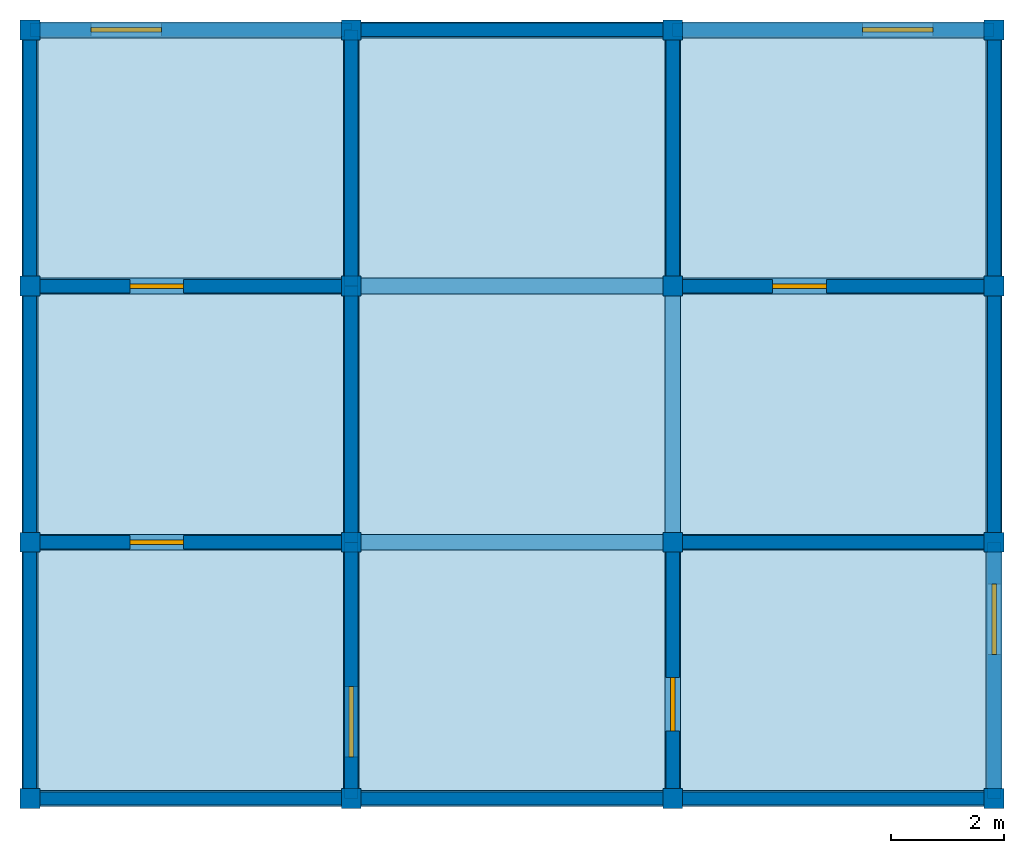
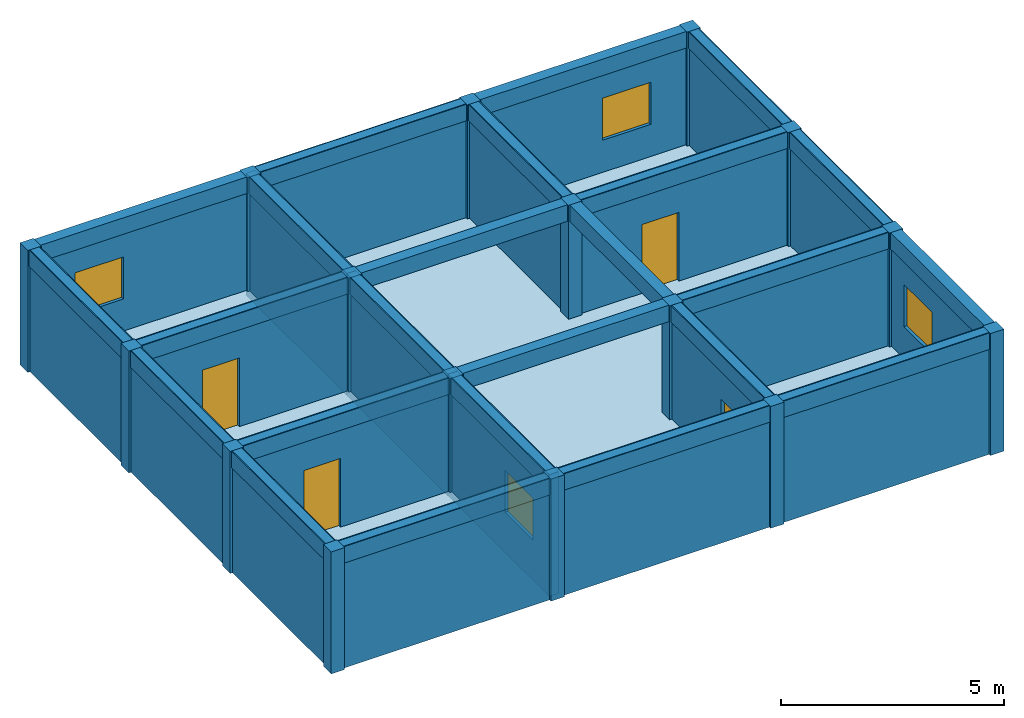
# One storey: 24 beams, 24 walls, 16 columns, 4 doors, 4 windows, 1 slab, 8 openings.
"""IFC4X3 building model written with IfcOpenShell, lengths in metres."""

from ifc_helpers import new_model, si_unit, frame, origin_with_axes, origin_2d, place, context, project, spatial, rectangle, extrude, material, element, fill, save


model = new_model("IFC4X3")

# Units and contexts
model_context = context("Model", 3, precision=1e-05, world=origin_with_axes())
ifc_project = project(units=[si_unit("LENGTHUNIT", "METRE"), si_unit("AREAUNIT", "SQUARE_METRE"), si_unit("VOLUMEUNIT", "CUBIC_METRE")], contexts=[model_context])

# Site, building, storey
site = spatial("IfcSite", under=ifc_project, Name="Valdivia Parcel", CompositionType="ELEMENT")
building = spatial("IfcBuilding", under=site, Name="Strata Block", CompositionType="ELEMENT")
storey = spatial("IfcBuildingStorey", under=building, Name="Level 10", CompositionType="ELEMENT", Elevation=30.02)

# Columns
ifc_material_1 = material(Name="Concrete")
column_1_placement = place(None, frame((-8.525, -6.795, 30.019), z_axis=(0.0, 0.0, 1.0), x_axis=(1.0, 0.0, 0.0)))
element("IfcColumn", 1, at=column_1_placement, inside=storey, material=ifc_material_1, Name="Column 10.1", ObjectType="Core Column", PredefinedType="PILASTER", context=model_context, shape_type="SweptSolid", body=[
    extrude(rectangle(XDim=0.35, YDim=0.35, at=origin_2d()), origin_with_axes(), (0.0, 0.0, 1.0), 3.335),
])
column_2_placement = place(None, frame((-8.525, -2.265, 30.019), z_axis=(0.0, 0.0, 1.0), x_axis=(1.0, 0.0, 0.0)))
element("IfcColumn", 2, at=column_2_placement, inside=storey, material=ifc_material_1, Name="Column 10.2", ObjectType="Facade Column", PredefinedType="COLUMN", context=model_context, shape_type="SweptSolid", body=[
    extrude(rectangle(XDim=0.35, YDim=0.35, at=origin_2d()), origin_with_axes(), (0.0, 0.0, 1.0), 3.335),
])
column_3_placement = place(None, frame((-8.525, 2.265, 30.019), z_axis=(0.0, 0.0, 1.0), x_axis=(1.0, 0.0, 0.0)))
element("IfcColumn", 3, at=column_3_placement, inside=storey, material=ifc_material_1, Name="Column 10.3", ObjectType="Corner Column", PredefinedType="PILASTER", context=model_context, shape_type="SweptSolid", body=[
    extrude(rectangle(XDim=0.35, YDim=0.35, at=origin_2d()), origin_with_axes(), (0.0, 0.0, 1.0), 3.335),
])
column_4_placement = place(None, frame((-8.525, 6.795, 30.019), z_axis=(0.0, 0.0, 1.0), x_axis=(1.0, 0.0, 0.0)))
element("IfcColumn", 4, at=column_4_placement, inside=storey, material=ifc_material_1, Name="Column 10.4", ObjectType="Facade Column", PredefinedType="COLUMN", context=model_context, shape_type="SweptSolid", body=[
    extrude(rectangle(XDim=0.35, YDim=0.35, at=origin_2d()), origin_with_axes(), (0.0, 0.0, 1.0), 3.335),
])
column_5_placement = place(None, frame((-2.842, -6.795, 30.019), z_axis=(0.0, 0.0, 1.0), x_axis=(1.0, 0.0, 0.0)))
element("IfcColumn", 5, at=column_5_placement, inside=storey, material=ifc_material_1, Name="Column 10.5", ObjectType="Structural Column", PredefinedType="COLUMN", context=model_context, shape_type="SweptSolid", body=[
    extrude(rectangle(XDim=0.35, YDim=0.35, at=origin_2d()), origin_with_axes(), (0.0, 0.0, 1.0), 3.335),
])
for number, where, z_axis, x_axis, name in (
    (6, (-2.842, -2.265, 30.019), (0.0, 0.0, 1.0), (1.0, 0.0, 0.0), "Column 10.6"),
    (7, (-2.842, 2.265, 30.019), (0.0, 0.0, 1.0), (1.0, 0.0, 0.0), "Column 10.7"),
):
    element("IfcColumn", number, at=place(None, frame(where, z_axis=z_axis, x_axis=x_axis)), inside=storey, material=ifc_material_1, Name=name, ObjectType="Corner Column", PredefinedType="USERDEFINED", context=model_context, shape_type="SweptSolid", body=[
        extrude(rectangle(XDim=0.35, YDim=0.35, at=origin_2d()), origin_with_axes(), (0.0, 0.0, 1.0), 3.335),
    ])
column_6_placement = place(None, frame((-2.842, 6.795, 30.019), z_axis=(0.0, 0.0, 1.0), x_axis=(1.0, 0.0, 0.0)))
element("IfcColumn", 8, at=column_6_placement, inside=storey, material=ifc_material_1, Name="Column 10.8", ObjectType="Structural Column", PredefinedType="USERDEFINED", context=model_context, shape_type="SweptSolid", body=[
    extrude(rectangle(XDim=0.35, YDim=0.35, at=origin_2d()), origin_with_axes(), (0.0, 0.0, 1.0), 3.335),
])
column_7_placement = place(None, frame((2.841, -6.795, 30.019), z_axis=(0.0, 0.0, 1.0), x_axis=(1.0, 0.0, 0.0)))
element("IfcColumn", 9, at=column_7_placement, inside=storey, material=ifc_material_1, Name="Column 10.9", ObjectType="Structural Column", PredefinedType="PILASTER", context=model_context, shape_type="SweptSolid", body=[
    extrude(rectangle(XDim=0.35, YDim=0.35, at=origin_2d()), origin_with_axes(), (0.0, 0.0, 1.0), 3.335),
])
column_8_placement = place(None, frame((2.841, -2.265, 30.019), z_axis=(0.0, 0.0, 1.0), x_axis=(1.0, 0.0, 0.0)))
element("IfcColumn", 10, at=column_8_placement, inside=storey, material=ifc_material_1, Name="Column 10.10", ObjectType="Facade Column", PredefinedType="COLUMN", context=model_context, shape_type="SweptSolid", body=[
    extrude(rectangle(XDim=0.35, YDim=0.35, at=origin_2d()), origin_with_axes(), (0.0, 0.0, 1.0), 3.335),
])
column_9_placement = place(None, frame((2.841, 2.265, 30.019), z_axis=(0.0, 0.0, 1.0), x_axis=(1.0, 0.0, 0.0)))
element("IfcColumn", 11, at=column_9_placement, inside=storey, material=ifc_material_1, Name="Column 10.11", ObjectType="Core Column", PredefinedType="USERDEFINED", context=model_context, shape_type="SweptSolid", body=[
    extrude(rectangle(XDim=0.35, YDim=0.35, at=origin_2d()), origin_with_axes(), (0.0, 0.0, 1.0), 3.335),
])
column_10_placement = place(None, frame((2.841, 6.795, 30.019), z_axis=(0.0, 0.0, 1.0), x_axis=(1.0, 0.0, 0.0)))
element("IfcColumn", 12, at=column_10_placement, inside=storey, material=ifc_material_1, Name="Column 10.12", ObjectType="Facade Column", PredefinedType="USERDEFINED", context=model_context, shape_type="SweptSolid", body=[
    extrude(rectangle(XDim=0.35, YDim=0.35, at=origin_2d()), origin_with_axes(), (0.0, 0.0, 1.0), 3.335),
])
column_11_placement = place(None, frame((8.524, -6.795, 30.019), z_axis=(0.0, 0.0, 1.0), x_axis=(1.0, 0.0, 0.0)))
element("IfcColumn", 13, at=column_11_placement, inside=storey, material=ifc_material_1, Name="Column 10.13", ObjectType="Corner Column", PredefinedType="PILASTER", context=model_context, shape_type="SweptSolid", body=[
    extrude(rectangle(XDim=0.35, YDim=0.35, at=origin_2d()), origin_with_axes(), (0.0, 0.0, 1.0), 3.335),
])
column_12_placement = place(None, frame((8.524, -2.265, 30.019), z_axis=(0.0, 0.0, 1.0), x_axis=(1.0, 0.0, 0.0)))
element("IfcColumn", 14, at=column_12_placement, inside=storey, material=ifc_material_1, Name="Column 10.14", ObjectType="Facade Column", PredefinedType="PILASTER", context=model_context, shape_type="SweptSolid", body=[
    extrude(rectangle(XDim=0.35, YDim=0.35, at=origin_2d()), origin_with_axes(), (0.0, 0.0, 1.0), 3.335),
])
column_13_placement = place(None, frame((8.524, 2.265, 30.019), z_axis=(0.0, 0.0, 1.0), x_axis=(1.0, 0.0, 0.0)))
element("IfcColumn", 15, at=column_13_placement, inside=storey, material=ifc_material_1, Name="Column 10.15", ObjectType="Core Column", PredefinedType="COLUMN", context=model_context, shape_type="SweptSolid", body=[
    extrude(rectangle(XDim=0.35, YDim=0.35, at=origin_2d()), origin_with_axes(), (0.0, 0.0, 1.0), 3.335),
])
column_14_placement = place(None, frame((8.524, 6.795, 30.019), z_axis=(0.0, 0.0, 1.0), x_axis=(1.0, 0.0, 0.0)))
element("IfcColumn", 16, at=column_14_placement, inside=storey, material=ifc_material_1, Name="Column 10.16", ObjectType="Facade Column", PredefinedType="USERDEFINED", context=model_context, shape_type="SweptSolid", body=[
    extrude(rectangle(XDim=0.35, YDim=0.35, at=origin_2d()), origin_with_axes(), (0.0, 0.0, 1.0), 3.335),
])

# Beams
beam_1_placement = place(None, frame((-5.684, -6.795, 32.904), z_axis=(0.0, 0.0, 1.0), x_axis=(1.0, 0.0, 0.0)))
element("IfcBeam", 17, at=beam_1_placement, inside=storey, material=ifc_material_1, Name="Beam 10.1", ObjectType="Transfer Beam", PredefinedType="USERDEFINED", context=model_context, shape_type="SweptSolid", body=[
    extrude(rectangle(XDim=5.683, YDim=0.28, at=origin_2d()), origin_with_axes(), (0.0, 0.0, 1.0), 0.45),
])
beam_2_placement = place(None, frame((0.0, -6.795, 32.904), z_axis=(0.0, 0.0, 1.0), x_axis=(1.0, 0.0, 0.0)))
element("IfcBeam", 18, at=beam_2_placement, inside=storey, material=ifc_material_1, Name="Beam 10.2", ObjectType="Secondary Beam", PredefinedType="USERDEFINED", context=model_context, shape_type="SweptSolid", body=[
    extrude(rectangle(XDim=5.683, YDim=0.28, at=origin_2d()), origin_with_axes(), (0.0, 0.0, 1.0), 0.45),
])
beam_3_placement = place(None, frame((5.682, -6.795, 32.904), z_axis=(0.0, 0.0, 1.0), x_axis=(1.0, 0.0, 0.0)))
element("IfcBeam", 19, at=beam_3_placement, inside=storey, material=ifc_material_1, Name="Beam 10.3", ObjectType="Ridge Beam", PredefinedType="HOLLOWCORE", context=model_context, shape_type="SweptSolid", body=[
    extrude(rectangle(XDim=5.683, YDim=0.28, at=origin_2d()), origin_with_axes(), (0.0, 0.0, 1.0), 0.45),
])
beam_4_placement = place(None, frame((-5.684, -2.265, 32.904), z_axis=(0.0, 0.0, 1.0), x_axis=(1.0, 0.0, 0.0)))
element("IfcBeam", 20, at=beam_4_placement, inside=storey, material=ifc_material_1, Name="Beam 10.4", ObjectType="Rafter Beam", PredefinedType="SPANDREL", context=model_context, shape_type="SweptSolid", body=[
    extrude(rectangle(XDim=5.683, YDim=0.28, at=origin_2d()), origin_with_axes(), (0.0, 0.0, 1.0), 0.45),
])
beam_5_placement = place(None, frame((0.0, -2.265, 32.904), z_axis=(0.0, 0.0, 1.0), x_axis=(1.0, 0.0, 0.0)))
element("IfcBeam", 21, at=beam_5_placement, inside=storey, material=ifc_material_1, Name="Beam 10.5", ObjectType="Transfer Beam", PredefinedType="SPANDREL", context=model_context, shape_type="SweptSolid", body=[
    extrude(rectangle(XDim=5.683, YDim=0.28, at=origin_2d()), origin_with_axes(), (0.0, 0.0, 1.0), 0.45),
])
beam_6_placement = place(None, frame((5.682, -2.265, 32.904), z_axis=(0.0, 0.0, 1.0), x_axis=(1.0, 0.0, 0.0)))
element("IfcBeam", 22, at=beam_6_placement, inside=storey, material=ifc_material_1, Name="Beam 10.6", ObjectType="Rafter Beam", PredefinedType="USERDEFINED", context=model_context, shape_type="SweptSolid", body=[
    extrude(rectangle(XDim=5.683, YDim=0.28, at=origin_2d()), origin_with_axes(), (0.0, 0.0, 1.0), 0.45),
])
beam_7_placement = place(None, frame((-5.684, 2.265, 32.904), z_axis=(0.0, 0.0, 1.0), x_axis=(1.0, 0.0, 0.0)))
element("IfcBeam", 23, at=beam_7_placement, inside=storey, material=ifc_material_1, Name="Beam 10.7", ObjectType="Transfer Beam", PredefinedType="HOLLOWCORE", context=model_context, shape_type="SweptSolid", body=[
    extrude(rectangle(XDim=5.683, YDim=0.28, at=origin_2d()), origin_with_axes(), (0.0, 0.0, 1.0), 0.45),
])
beam_8_placement = place(None, frame((0.0, 2.265, 32.904), z_axis=(0.0, 0.0, 1.0), x_axis=(1.0, 0.0, 0.0)))
element("IfcBeam", 24, at=beam_8_placement, inside=storey, material=ifc_material_1, Name="Beam 10.8", ObjectType="Secondary Beam", PredefinedType="NOTDEFINED", context=model_context, shape_type="SweptSolid", body=[
    extrude(rectangle(XDim=5.683, YDim=0.28, at=origin_2d()), origin_with_axes(), (0.0, 0.0, 1.0), 0.45),
])
beam_9_placement = place(None, frame((5.682, 2.265, 32.904), z_axis=(0.0, 0.0, 1.0), x_axis=(1.0, 0.0, 0.0)))
element("IfcBeam", 25, at=beam_9_placement, inside=storey, material=ifc_material_1, Name="Beam 10.9", ObjectType="Transfer Beam", PredefinedType="LINTEL", context=model_context, shape_type="SweptSolid", body=[
    extrude(rectangle(XDim=5.683, YDim=0.28, at=origin_2d()), origin_with_axes(), (0.0, 0.0, 1.0), 0.45),
])
beam_10_placement = place(None, frame((-5.684, 6.795, 32.904), z_axis=(0.0, 0.0, 1.0), x_axis=(1.0, 0.0, 0.0)))
element("IfcBeam", 26, at=beam_10_placement, inside=storey, material=ifc_material_1, Name="Beam 10.10", ObjectType="Secondary Beam", PredefinedType="NOTDEFINED", context=model_context, shape_type="SweptSolid", body=[
    extrude(rectangle(XDim=5.683, YDim=0.28, at=origin_2d()), origin_with_axes(), (0.0, 0.0, 1.0), 0.45),
])
beam_11_placement = place(None, frame((0.0, 6.795, 32.904), z_axis=(0.0, 0.0, 1.0), x_axis=(1.0, 0.0, 0.0)))
element("IfcBeam", 27, at=beam_11_placement, inside=storey, material=ifc_material_1, Name="Beam 10.11", ObjectType="Ridge Beam", PredefinedType="LINTEL", context=model_context, shape_type="SweptSolid", body=[
    extrude(rectangle(XDim=5.683, YDim=0.28, at=origin_2d()), origin_with_axes(), (0.0, 0.0, 1.0), 0.45),
])
beam_12_placement = place(None, frame((5.682, 6.795, 32.904), z_axis=(0.0, 0.0, 1.0), x_axis=(1.0, 0.0, 0.0)))
element("IfcBeam", 28, at=beam_12_placement, inside=storey, material=ifc_material_1, Name="Beam 10.12", ObjectType="Primary Beam", PredefinedType="T_BEAM", context=model_context, shape_type="SweptSolid", body=[
    extrude(rectangle(XDim=5.683, YDim=0.28, at=origin_2d()), origin_with_axes(), (0.0, 0.0, 1.0), 0.45),
])
beam_13_placement = place(None, frame((-8.525, -4.53, 32.904), z_axis=(0.0, 0.0, 1.0), x_axis=(0.0, 1.0, 0.0)))
element("IfcBeam", 29, at=beam_13_placement, inside=storey, material=ifc_material_1, Name="Beam 10.13", ObjectType="Rafter Beam", PredefinedType="HOLLOWCORE", context=model_context, shape_type="SweptSolid", body=[
    extrude(rectangle(XDim=4.53, YDim=0.28, at=origin_2d()), origin_with_axes(), (0.0, 0.0, 1.0), 0.45),
])
beam_14_placement = place(None, frame((-8.525, 0.0, 32.904), z_axis=(0.0, 0.0, 1.0), x_axis=(0.0, 1.0, 0.0)))
element("IfcBeam", 30, at=beam_14_placement, inside=storey, material=ifc_material_1, Name="Beam 10.14", ObjectType="Transfer Beam", PredefinedType="BEAM", context=model_context, shape_type="SweptSolid", body=[
    extrude(rectangle(XDim=4.53, YDim=0.28, at=origin_2d()), origin_with_axes(), (0.0, 0.0, 1.0), 0.45),
])
beam_15_placement = place(None, frame((-8.525, 4.53, 32.904), z_axis=(0.0, 0.0, 1.0), x_axis=(0.0, 1.0, 0.0)))
element("IfcBeam", 31, at=beam_15_placement, inside=storey, material=ifc_material_1, Name="Beam 10.15", ObjectType="Primary Beam", PredefinedType="SPANDREL", context=model_context, shape_type="SweptSolid", body=[
    extrude(rectangle(XDim=4.53, YDim=0.28, at=origin_2d()), origin_with_axes(), (0.0, 0.0, 1.0), 0.45),
])
beam_16_placement = place(None, frame((-2.842, -4.53, 32.904), z_axis=(0.0, 0.0, 1.0), x_axis=(0.0, 1.0, 0.0)))
element("IfcBeam", 32, at=beam_16_placement, inside=storey, material=ifc_material_1, Name="Beam 10.16", ObjectType="Transfer Beam", PredefinedType="HOLLOWCORE", context=model_context, shape_type="SweptSolid", body=[
    extrude(rectangle(XDim=4.53, YDim=0.28, at=origin_2d()), origin_with_axes(), (0.0, 0.0, 1.0), 0.45),
])
beam_17_placement = place(None, frame((-2.842, 0.0, 32.904), z_axis=(0.0, 0.0, 1.0), x_axis=(0.0, 1.0, 0.0)))
element("IfcBeam", 33, at=beam_17_placement, inside=storey, material=ifc_material_1, Name="Beam 10.17", ObjectType="Primary Beam", PredefinedType="SPANDREL", context=model_context, shape_type="SweptSolid", body=[
    extrude(rectangle(XDim=4.53, YDim=0.28, at=origin_2d()), origin_with_axes(), (0.0, 0.0, 1.0), 0.45),
])
beam_18_placement = place(None, frame((-2.842, 4.53, 32.904), z_axis=(0.0, 0.0, 1.0), x_axis=(0.0, 1.0, 0.0)))
element("IfcBeam", 34, at=beam_18_placement, inside=storey, material=ifc_material_1, Name="Beam 10.18", ObjectType="Secondary Beam", PredefinedType="LINTEL", context=model_context, shape_type="SweptSolid", body=[
    extrude(rectangle(XDim=4.53, YDim=0.28, at=origin_2d()), origin_with_axes(), (0.0, 0.0, 1.0), 0.45),
])
beam_19_placement = place(None, frame((2.841, -4.53, 32.904), z_axis=(0.0, 0.0, 1.0), x_axis=(0.0, 1.0, 0.0)))
element("IfcBeam", 35, at=beam_19_placement, inside=storey, material=ifc_material_1, Name="Beam 10.19", ObjectType="Primary Beam", PredefinedType="LINTEL", context=model_context, shape_type="SweptSolid", body=[
    extrude(rectangle(XDim=4.53, YDim=0.28, at=origin_2d()), origin_with_axes(), (0.0, 0.0, 1.0), 0.45),
])
beam_20_placement = place(None, frame((2.841, 0.0, 32.904), z_axis=(0.0, 0.0, 1.0), x_axis=(0.0, 1.0, 0.0)))
element("IfcBeam", 36, at=beam_20_placement, inside=storey, material=ifc_material_1, Name="Beam 10.20", ObjectType="Primary Beam", PredefinedType="SPANDREL", context=model_context, shape_type="SweptSolid", body=[
    extrude(rectangle(XDim=4.53, YDim=0.28, at=origin_2d()), origin_with_axes(), (0.0, 0.0, 1.0), 0.45),
])
beam_21_placement = place(None, frame((2.841, 4.53, 32.904), z_axis=(0.0, 0.0, 1.0), x_axis=(0.0, 1.0, 0.0)))
element("IfcBeam", 37, at=beam_21_placement, inside=storey, material=ifc_material_1, Name="Beam 10.21", ObjectType="Transfer Beam", PredefinedType="NOTDEFINED", context=model_context, shape_type="SweptSolid", body=[
    extrude(rectangle(XDim=4.53, YDim=0.28, at=origin_2d()), origin_with_axes(), (0.0, 0.0, 1.0), 0.45),
])
beam_22_placement = place(None, frame((8.524, -4.53, 32.904), z_axis=(0.0, 0.0, 1.0), x_axis=(0.0, 1.0, 0.0)))
element("IfcBeam", 38, at=beam_22_placement, inside=storey, material=ifc_material_1, Name="Beam 10.22", ObjectType="Secondary Beam", PredefinedType="USERDEFINED", context=model_context, shape_type="SweptSolid", body=[
    extrude(rectangle(XDim=4.53, YDim=0.28, at=origin_2d()), origin_with_axes(), (0.0, 0.0, 1.0), 0.45),
])
beam_23_placement = place(None, frame((8.524, 0.0, 32.904), z_axis=(0.0, 0.0, 1.0), x_axis=(0.0, 1.0, 0.0)))
element("IfcBeam", 39, at=beam_23_placement, inside=storey, material=ifc_material_1, Name="Beam 10.23", ObjectType="Transfer Beam", PredefinedType="LINTEL", context=model_context, shape_type="SweptSolid", body=[
    extrude(rectangle(XDim=4.53, YDim=0.28, at=origin_2d()), origin_with_axes(), (0.0, 0.0, 1.0), 0.45),
])
beam_24_placement = place(None, frame((8.524, 4.53, 32.904), z_axis=(0.0, 0.0, 1.0), x_axis=(0.0, 1.0, 0.0)))
element("IfcBeam", 40, at=beam_24_placement, inside=storey, material=ifc_material_1, Name="Beam 10.24", ObjectType="Ridge Beam", PredefinedType="LINTEL", context=model_context, shape_type="SweptSolid", body=[
    extrude(rectangle(XDim=4.53, YDim=0.28, at=origin_2d()), origin_with_axes(), (0.0, 0.0, 1.0), 0.45),
])

# Slab
ifc_material_2 = material(Name="Timber")
slab_placement = place(None, frame((0.0, 0.0, 30.02), z_axis=(0.0, 0.0, 1.0), x_axis=(1.0, 0.0, 0.0)))
element("IfcSlab", 41, at=slab_placement, inside=storey, material=ifc_material_2, Name="Slab 10", ObjectType="Floor Slab", PredefinedType="FLOOR", context=model_context, shape_type="SweptSolid", body=[
    extrude(rectangle(XDim=17.05, YDim=13.59, at=origin_2d()), origin_with_axes(), (0.0, 0.0, 1.0), 0.22),
])

# Wall, opening, door
ifc_material_3 = material(Name="Gypsum")
wall_1_placement = place(None, frame((-5.684, -2.265, 30.019), z_axis=(0.0, 0.0, 1.0), x_axis=(1.0, 0.0, 0.0)))
wall_1 = element("IfcWall", 42, at=wall_1_placement, inside=storey, material=ifc_material_3, Name="Wall 10.1", ObjectType="Corridor Partition", PredefinedType="MOVABLE", context=model_context, shape_type="SweptSolid", body=[
    extrude(rectangle(XDim=5.683, YDim=0.236125, at=origin_2d()), origin_with_axes(), (0.0, 0.0, 1.0), 3.335),
])
opening_1_placement = place(None, frame((-6.284, -2.265, 30.019), z_axis=(0.0, 0.0, 1.0), x_axis=(1.0, 0.0, 0.0)))
opening_1 = element("IfcOpeningElement", 43, at=opening_1_placement, cuts=wall_1, Name="Door opening 10.1", ObjectType="Door Opening", PredefinedType="OPENING", context=model_context, shape_type="SweptSolid", body=[
    extrude(rectangle(XDim=0.95, YDim=0.316125, at=origin_2d()), origin_with_axes(), (0.0, 0.0, 1.0), 2.1),
])
door_1_placement = place(None, frame((-6.284, -2.265, 30.019), z_axis=(0.0, 0.0, 1.0), x_axis=(1.0, 0.0, 0.0)))
door_1 = element("IfcDoor", 44, at=door_1_placement, inside=storey, Name="Door 10.1", ObjectType="Entry Door", OverallHeight=2.1, OverallWidth=0.95, context=model_context, shape_type="SweptSolid", body=[
    extrude(rectangle(XDim=0.95, YDim=0.08, at=origin_2d()), origin_with_axes(), (0.0, 0.0, 1.0), 2.1),
])
fill(opening_1, door_1)

# Wall, opening, window
ifc_material_4 = material(Name="CLT")
wall_2_placement = place(None, frame((-2.8425, -4.53, 30.019), z_axis=(0.0, 0.0, 1.0), x_axis=(0.0, 1.0, 0.0)))
wall_2 = element("IfcWall", 45, at=wall_2_placement, inside=storey, material=ifc_material_4, Name="Wall 10.2", ObjectType="Exterior Wall", PredefinedType="PARTITIONING", context=model_context, shape_type="SweptSolid", body=[
    extrude(rectangle(XDim=4.53, YDim=0.236125, at=origin_2d()), origin_with_axes(), (0.0, 0.0, 1.0), 3.335),
])
opening_2_placement = place(None, frame((-2.843, -5.436, 31.119), z_axis=(0.0, 0.0, 1.0), x_axis=(0.0, 1.0, 0.0)))
opening_2 = element("IfcOpeningElement", 46, at=opening_2_placement, cuts=wall_2, Name="Window opening 10.2", ObjectType="Window Opening", PredefinedType="OPENING", context=model_context, shape_type="SweptSolid", body=[
    extrude(rectangle(XDim=1.25, YDim=0.316125, at=origin_2d()), origin_with_axes(), (0.0, 0.0, 1.0), 1.15),
])
window_1_placement = place(None, frame((-2.843, -5.436, 31.119), z_axis=(0.0, 0.0, 1.0), x_axis=(0.0, 1.0, 0.0)))
window_1 = element("IfcWindow", 47, at=window_1_placement, inside=storey, Name="Window 10.2", ObjectType="Louvre Window", OverallHeight=1.15, OverallWidth=1.25, context=model_context, shape_type="SweptSolid", body=[
    extrude(rectangle(XDim=1.25, YDim=0.08, at=origin_2d()), origin_with_axes(), (0.0, 0.0, 1.0), 1.15),
])
fill(opening_2, window_1)

# Walls
wall_3_placement = place(None, frame((-5.684, -6.795, 30.019), z_axis=(0.0, 0.0, 1.0), x_axis=(1.0, 0.0, 0.0)))
element("IfcWall", 48, at=wall_3_placement, inside=storey, material=ifc_material_1, Name="Wall 10.3", ObjectType="Exterior Wall", PredefinedType="POLYGONAL", context=model_context, shape_type="SweptSolid", body=[
    extrude(rectangle(XDim=5.683, YDim=0.236125, at=origin_2d()), origin_with_axes(), (0.0, 0.0, 1.0), 3.335),
])
wall_4_placement = place(None, frame((-8.5255, -4.53, 30.019), z_axis=(0.0, 0.0, 1.0), x_axis=(0.0, 1.0, 0.0)))
element("IfcWall", 49, at=wall_4_placement, inside=storey, material=ifc_material_4, Name="Wall 10.4", ObjectType="Exterior Wall", PredefinedType="SOLIDWALL", context=model_context, shape_type="SweptSolid", body=[
    extrude(rectangle(XDim=4.53, YDim=0.236125, at=origin_2d()), origin_with_axes(), (0.0, 0.0, 1.0), 3.335),
])

# Wall, opening, door
ifc_material_5 = material(Name="Brick")
wall_5_placement = place(None, frame((2.8405, -4.53, 30.019), z_axis=(0.0, 0.0, 1.0), x_axis=(0.0, 1.0, 0.0)))
wall_5 = element("IfcWall", 50, at=wall_5_placement, inside=storey, material=ifc_material_5, Name="Wall 10.5", ObjectType="Corridor Partition", PredefinedType="SOLIDWALL", context=model_context, shape_type="SweptSolid", body=[
    extrude(rectangle(XDim=4.53, YDim=0.236125, at=origin_2d()), origin_with_axes(), (0.0, 0.0, 1.0), 3.335),
])
opening_3_placement = place(None, frame((2.841, -5.13, 30.019), z_axis=(0.0, 0.0, 1.0), x_axis=(0.0, 1.0, 0.0)))
opening_3 = element("IfcOpeningElement", 51, at=opening_3_placement, cuts=wall_5, Name="Door opening 10.3", ObjectType="Door Opening", PredefinedType="OPENING", context=model_context, shape_type="SweptSolid", body=[
    extrude(rectangle(XDim=0.95, YDim=0.316125, at=origin_2d()), origin_with_axes(), (0.0, 0.0, 1.0), 2.1),
])
door_2_placement = place(None, frame((2.841, -5.13, 30.019), z_axis=(0.0, 0.0, 1.0), x_axis=(0.0, 1.0, 0.0)))
door_2 = element("IfcDoor", 52, at=door_2_placement, inside=storey, Name="Door 10.3", ObjectType="Fire Door", OverallHeight=2.1, OverallWidth=0.95, context=model_context, shape_type="SweptSolid", body=[
    extrude(rectangle(XDim=0.95, YDim=0.08, at=origin_2d()), origin_with_axes(), (0.0, 0.0, 1.0), 2.1),
])
fill(opening_3, door_2)

# Walls
wall_6_placement = place(None, frame((-0.001, -6.795, 30.019), z_axis=(0.0, 0.0, 1.0), x_axis=(1.0, 0.0, 0.0)))
element("IfcWall", 53, at=wall_6_placement, inside=storey, material=ifc_material_1, Name="Wall 10.6", ObjectType="Exterior Wall", PredefinedType="NOTDEFINED", context=model_context, shape_type="SweptSolid", body=[
    extrude(rectangle(XDim=5.683, YDim=0.236125, at=origin_2d()), origin_with_axes(), (0.0, 0.0, 1.0), 3.335),
])
wall_7_placement = place(None, frame((-2.8425, -4.53, 30.019), z_axis=(0.0, 0.0, 1.0), x_axis=(0.0, 1.0, 0.0)))
element("IfcWall", 54, at=wall_7_placement, inside=storey, material=ifc_material_4, Name="Wall 10.7", ObjectType="Exterior Wall", PredefinedType="PARAPET", context=model_context, shape_type="SweptSolid", body=[
    extrude(rectangle(XDim=4.53, YDim=0.236125, at=origin_2d()), origin_with_axes(), (0.0, 0.0, 1.0), 3.335),
])
wall_8_placement = place(None, frame((5.682, -2.265, 30.019), z_axis=(0.0, 0.0, 1.0), x_axis=(1.0, 0.0, 0.0)))
element("IfcWall", 55, at=wall_8_placement, inside=storey, material=ifc_material_3, Name="Wall 10.8", ObjectType="Corridor Partition", PredefinedType="MOVABLE", context=model_context, shape_type="SweptSolid", body=[
    extrude(rectangle(XDim=5.683, YDim=0.236125, at=origin_2d()), origin_with_axes(), (0.0, 0.0, 1.0), 3.335),
])

# Wall, opening, window
wall_9_placement = place(None, frame((8.5235, -4.53, 30.019), z_axis=(0.0, 0.0, 1.0), x_axis=(0.0, 1.0, 0.0)))
wall_9 = element("IfcWall", 56, at=wall_9_placement, inside=storey, material=ifc_material_4, Name="Wall 10.9", ObjectType="Exterior Wall", PredefinedType="STANDARD", context=model_context, shape_type="SweptSolid", body=[
    extrude(rectangle(XDim=4.53, YDim=0.236125, at=origin_2d()), origin_with_axes(), (0.0, 0.0, 1.0), 3.335),
])
opening_4_placement = place(None, frame((8.524, -3.624, 31.119), z_axis=(0.0, 0.0, 1.0), x_axis=(0.0, 1.0, 0.0)))
opening_4 = element("IfcOpeningElement", 57, at=opening_4_placement, cuts=wall_9, Name="Window opening 10.4", ObjectType="Window Opening", PredefinedType="OPENING", context=model_context, shape_type="SweptSolid", body=[
    extrude(rectangle(XDim=1.25, YDim=0.316125, at=origin_2d()), origin_with_axes(), (0.0, 0.0, 1.0), 1.15),
])
window_2_placement = place(None, frame((8.524, -3.624, 31.119), z_axis=(0.0, 0.0, 1.0), x_axis=(0.0, 1.0, 0.0)))
window_2 = element("IfcWindow", 58, at=window_2_placement, inside=storey, Name="Window 10.4", ObjectType="Sliding Window", OverallHeight=1.15, OverallWidth=1.25, context=model_context, shape_type="SweptSolid", body=[
    extrude(rectangle(XDim=1.25, YDim=0.08, at=origin_2d()), origin_with_axes(), (0.0, 0.0, 1.0), 1.15),
])
fill(opening_4, window_2)

# Wall
wall_10_placement = place(None, frame((5.682, -6.795, 30.019), z_axis=(0.0, 0.0, 1.0), x_axis=(1.0, 0.0, 0.0)))
element("IfcWall", 59, at=wall_10_placement, inside=storey, material=ifc_material_1, Name="Wall 10.10", ObjectType="Exterior Wall", PredefinedType="PARAPET", context=model_context, shape_type="SweptSolid", body=[
    extrude(rectangle(XDim=5.683, YDim=0.236125, at=origin_2d()), origin_with_axes(), (0.0, 0.0, 1.0), 3.335),
])

# Wall, opening, door
wall_11_placement = place(None, frame((-5.684, 2.265, 30.019), z_axis=(0.0, 0.0, 1.0), x_axis=(1.0, 0.0, 0.0)))
wall_11 = element("IfcWall", 60, at=wall_11_placement, inside=storey, material=ifc_material_1, Name="Wall 10.11", ObjectType="Corridor Partition", PredefinedType="USERDEFINED", context=model_context, shape_type="SweptSolid", body=[
    extrude(rectangle(XDim=5.683, YDim=0.236125, at=origin_2d()), origin_with_axes(), (0.0, 0.0, 1.0), 3.335),
])
opening_5_placement = place(None, frame((-6.284, 2.265, 30.019), z_axis=(0.0, 0.0, 1.0), x_axis=(1.0, 0.0, 0.0)))
opening_5 = element("IfcOpeningElement", 61, at=opening_5_placement, cuts=wall_11, Name="Door opening 10.5", ObjectType="Door Opening", PredefinedType="OPENING", context=model_context, shape_type="SweptSolid", body=[
    extrude(rectangle(XDim=0.95, YDim=0.316125, at=origin_2d()), origin_with_axes(), (0.0, 0.0, 1.0), 2.1),
])
door_3_placement = place(None, frame((-6.284, 2.265, 30.019), z_axis=(0.0, 0.0, 1.0), x_axis=(1.0, 0.0, 0.0)))
door_3 = element("IfcDoor", 62, at=door_3_placement, inside=storey, Name="Door 10.5", ObjectType="Interior Door", OverallHeight=2.1, OverallWidth=0.95, context=model_context, shape_type="SweptSolid", body=[
    extrude(rectangle(XDim=0.95, YDim=0.08, at=origin_2d()), origin_with_axes(), (0.0, 0.0, 1.0), 2.1),
])
fill(opening_5, door_3)

# Walls
wall_12_placement = place(None, frame((-2.8425, 0.0, 30.019), z_axis=(0.0, 0.0, 1.0), x_axis=(0.0, 1.0, 0.0)))
element("IfcWall", 63, at=wall_12_placement, inside=storey, material=ifc_material_1, Name="Wall 10.12", ObjectType="Exterior Wall", PredefinedType="STANDARD", context=model_context, shape_type="SweptSolid", body=[
    extrude(rectangle(XDim=4.53, YDim=0.236125, at=origin_2d()), origin_with_axes(), (0.0, 0.0, 1.0), 3.335),
])
wall_13_placement = place(None, frame((-8.5255, 0.0, 30.019), z_axis=(0.0, 0.0, 1.0), x_axis=(0.0, 1.0, 0.0)))
element("IfcWall", 64, at=wall_13_placement, inside=storey, material=ifc_material_3, Name="Wall 10.13", ObjectType="Exterior Wall", PredefinedType="MOVABLE", context=model_context, shape_type="SweptSolid", body=[
    extrude(rectangle(XDim=4.53, YDim=0.236125, at=origin_2d()), origin_with_axes(), (0.0, 0.0, 1.0), 3.335),
])
wall_14_placement = place(None, frame((-2.8425, 0.0, 30.019), z_axis=(0.0, 0.0, 1.0), x_axis=(0.0, 1.0, 0.0)))
element("IfcWall", 65, at=wall_14_placement, inside=storey, material=ifc_material_5, Name="Wall 10.14", ObjectType="Exterior Wall", PredefinedType="PLUMBINGWALL", context=model_context, shape_type="SweptSolid", body=[
    extrude(rectangle(XDim=4.53, YDim=0.236125, at=origin_2d()), origin_with_axes(), (0.0, 0.0, 1.0), 3.335),
])

# Wall, opening, door
wall_15_placement = place(None, frame((5.682, 2.265, 30.019), z_axis=(0.0, 0.0, 1.0), x_axis=(1.0, 0.0, 0.0)))
wall_15 = element("IfcWall", 66, at=wall_15_placement, inside=storey, material=ifc_material_3, Name="Wall 10.15", ObjectType="Corridor Partition", PredefinedType="SHEAR", context=model_context, shape_type="SweptSolid", body=[
    extrude(rectangle(XDim=5.683, YDim=0.236125, at=origin_2d()), origin_with_axes(), (0.0, 0.0, 1.0), 3.335),
])
opening_6_placement = place(None, frame((5.082, 2.265, 30.019), z_axis=(0.0, 0.0, 1.0), x_axis=(1.0, 0.0, 0.0)))
opening_6 = element("IfcOpeningElement", 67, at=opening_6_placement, cuts=wall_15, Name="Door opening 10.7", ObjectType="Door Opening", PredefinedType="OPENING", context=model_context, shape_type="SweptSolid", body=[
    extrude(rectangle(XDim=0.95, YDim=0.316125, at=origin_2d()), origin_with_axes(), (0.0, 0.0, 1.0), 2.1),
])
door_4_placement = place(None, frame((5.082, 2.265, 30.019), z_axis=(0.0, 0.0, 1.0), x_axis=(1.0, 0.0, 0.0)))
door_4 = element("IfcDoor", 68, at=door_4_placement, inside=storey, Name="Door 10.7", ObjectType="Fire Door", OverallHeight=2.1, OverallWidth=0.95, context=model_context, shape_type="SweptSolid", body=[
    extrude(rectangle(XDim=0.95, YDim=0.08, at=origin_2d()), origin_with_axes(), (0.0, 0.0, 1.0), 2.1),
])
fill(opening_6, door_4)

# Wall
wall_16_placement = place(None, frame((8.5235, 0.0, 30.019), z_axis=(0.0, 0.0, 1.0), x_axis=(0.0, 1.0, 0.0)))
element("IfcWall", 69, at=wall_16_placement, inside=storey, material=ifc_material_5, Name="Wall 10.16", ObjectType="Exterior Wall", PredefinedType="SHEAR", context=model_context, shape_type="SweptSolid", body=[
    extrude(rectangle(XDim=4.53, YDim=0.236125, at=origin_2d()), origin_with_axes(), (0.0, 0.0, 1.0), 3.335),
])

# Wall, opening, window
wall_17_placement = place(None, frame((-5.684, 6.795, 30.019), z_axis=(0.0, 0.0, 1.0), x_axis=(1.0, 0.0, 0.0)))
wall_17 = element("IfcWall", 70, at=wall_17_placement, inside=storey, material=ifc_material_3, Name="Wall 10.17", ObjectType="Exterior Wall", PredefinedType="SOLIDWALL", context=model_context, shape_type="SweptSolid", body=[
    extrude(rectangle(XDim=5.683, YDim=0.236125, at=origin_2d()), origin_with_axes(), (0.0, 0.0, 1.0), 3.335),
])
opening_7_placement = place(None, frame((-6.821, 6.795, 31.119), z_axis=(0.0, 0.0, 1.0), x_axis=(1.0, 0.0, 0.0)))
opening_7 = element("IfcOpeningElement", 71, at=opening_7_placement, cuts=wall_17, Name="Window opening 10.6", ObjectType="Window Opening", PredefinedType="OPENING", context=model_context, shape_type="SweptSolid", body=[
    extrude(rectangle(XDim=1.25, YDim=0.316125, at=origin_2d()), origin_with_axes(), (0.0, 0.0, 1.0), 1.15),
])
window_3_placement = place(None, frame((-6.821, 6.795, 31.119), z_axis=(0.0, 0.0, 1.0), x_axis=(1.0, 0.0, 0.0)))
window_3 = element("IfcWindow", 72, at=window_3_placement, inside=storey, Name="Window 10.6", ObjectType="Fixed Window", OverallHeight=1.15, OverallWidth=1.25, context=model_context, shape_type="SweptSolid", body=[
    extrude(rectangle(XDim=1.25, YDim=0.08, at=origin_2d()), origin_with_axes(), (0.0, 0.0, 1.0), 1.15),
])
fill(opening_7, window_3)

# Walls
wall_18_placement = place(None, frame((-2.8425, 4.53, 30.019), z_axis=(0.0, 0.0, 1.0), x_axis=(0.0, 1.0, 0.0)))
element("IfcWall", 73, at=wall_18_placement, inside=storey, material=ifc_material_4, Name="Wall 10.18", ObjectType="Exterior Wall", PredefinedType="NOTDEFINED", context=model_context, shape_type="SweptSolid", body=[
    extrude(rectangle(XDim=4.53, YDim=0.236125, at=origin_2d()), origin_with_axes(), (0.0, 0.0, 1.0), 3.335),
])
wall_19_placement = place(None, frame((-8.5255, 4.53, 30.019), z_axis=(0.0, 0.0, 1.0), x_axis=(0.0, 1.0, 0.0)))
element("IfcWall", 74, at=wall_19_placement, inside=storey, material=ifc_material_5, Name="Wall 10.19", ObjectType="Exterior Wall", PredefinedType="NOTDEFINED", context=model_context, shape_type="SweptSolid", body=[
    extrude(rectangle(XDim=4.53, YDim=0.236125, at=origin_2d()), origin_with_axes(), (0.0, 0.0, 1.0), 3.335),
])
wall_20_placement = place(None, frame((-0.001, 6.795, 30.019), z_axis=(0.0, 0.0, 1.0), x_axis=(1.0, 0.0, 0.0)))
element("IfcWall", 75, at=wall_20_placement, inside=storey, material=ifc_material_4, Name="Wall 10.20", ObjectType="Exterior Wall", PredefinedType="PARTITIONING", context=model_context, shape_type="SweptSolid", body=[
    extrude(rectangle(XDim=5.683, YDim=0.236125, at=origin_2d()), origin_with_axes(), (0.0, 0.0, 1.0), 3.335),
])
wall_21_placement = place(None, frame((2.8405, 4.53, 30.019), z_axis=(0.0, 0.0, 1.0), x_axis=(0.0, 1.0, 0.0)))
element("IfcWall", 76, at=wall_21_placement, inside=storey, material=ifc_material_5, Name="Wall 10.21", ObjectType="Corridor Partition", PredefinedType="NOTDEFINED", context=model_context, shape_type="SweptSolid", body=[
    extrude(rectangle(XDim=4.53, YDim=0.236125, at=origin_2d()), origin_with_axes(), (0.0, 0.0, 1.0), 3.335),
])
wall_22_placement = place(None, frame((-2.8425, 4.53, 30.019), z_axis=(0.0, 0.0, 1.0), x_axis=(0.0, 1.0, 0.0)))
element("IfcWall", 77, at=wall_22_placement, inside=storey, material=ifc_material_3, Name="Wall 10.22", ObjectType="Exterior Wall", PredefinedType="MOVABLE", context=model_context, shape_type="SweptSolid", body=[
    extrude(rectangle(XDim=4.53, YDim=0.236125, at=origin_2d()), origin_with_axes(), (0.0, 0.0, 1.0), 3.335),
])

# Wall, opening, window
wall_23_placement = place(None, frame((5.682, 6.795, 30.019), z_axis=(0.0, 0.0, 1.0), x_axis=(1.0, 0.0, 0.0)))
wall_23 = element("IfcWall", 78, at=wall_23_placement, inside=storey, material=ifc_material_3, Name="Wall 10.23", ObjectType="Exterior Wall", PredefinedType="POLYGONAL", context=model_context, shape_type="SweptSolid", body=[
    extrude(rectangle(XDim=5.683, YDim=0.236125, at=origin_2d()), origin_with_axes(), (0.0, 0.0, 1.0), 3.335),
])
opening_8_placement = place(None, frame((6.819, 6.795, 31.119), z_axis=(0.0, 0.0, 1.0), x_axis=(1.0, 0.0, 0.0)))
opening_8 = element("IfcOpeningElement", 79, at=opening_8_placement, cuts=wall_23, Name="Window opening 10.8", ObjectType="Window Opening", PredefinedType="OPENING", context=model_context, shape_type="SweptSolid", body=[
    extrude(rectangle(XDim=1.25, YDim=0.316125, at=origin_2d()), origin_with_axes(), (0.0, 0.0, 1.0), 1.15),
])
window_4_placement = place(None, frame((6.819, 6.795, 31.119), z_axis=(0.0, 0.0, 1.0), x_axis=(1.0, 0.0, 0.0)))
window_4 = element("IfcWindow", 80, at=window_4_placement, inside=storey, Name="Window 10.8", ObjectType="Sliding Window", OverallHeight=1.15, OverallWidth=1.25, context=model_context, shape_type="SweptSolid", body=[
    extrude(rectangle(XDim=1.25, YDim=0.08, at=origin_2d()), origin_with_axes(), (0.0, 0.0, 1.0), 1.15),
])
fill(opening_8, window_4)

# Wall
wall_24_placement = place(None, frame((8.5235, 4.53, 30.019), z_axis=(0.0, 0.0, 1.0), x_axis=(0.0, 1.0, 0.0)))
element("IfcWall", 81, at=wall_24_placement, inside=storey, material=ifc_material_3, Name="Wall 10.24", ObjectType="Exterior Wall", PredefinedType="PLUMBINGWALL", context=model_context, shape_type="SweptSolid", body=[
    extrude(rectangle(XDim=4.53, YDim=0.236125, at=origin_2d()), origin_with_axes(), (0.0, 0.0, 1.0), 3.335),
])

save(model, "model.ifc")
